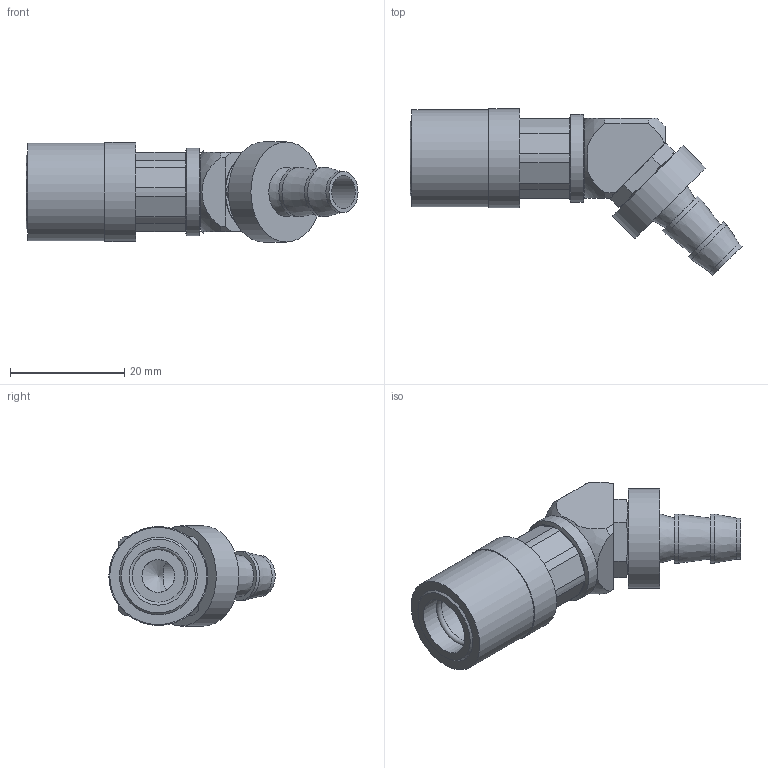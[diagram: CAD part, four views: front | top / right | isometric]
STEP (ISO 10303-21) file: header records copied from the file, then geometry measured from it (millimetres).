
FILE_DESCRIPTION(/* description */ ('STEP AP214'),/* implementation_level */ '2;1');
FILE_NAME(/* name */ 'JSL0224-V',/* time_stamp */ '2024-12-19T09:14:20+01:00',/* author */ ('License CC BY-ND 4.0'),/* organization */ ('CADENAS'),/* preprocessor_version */ 'ST-DEVELOPER v19.3',/* originating_system */ 'PARTsolutions',/* authorisation */ ' ');
FILE_SCHEMA (('AUTOMOTIVE_DESIGN {1 0 10303 214 3 1 1}'));
Length unit declared in the file: inch
Products named in the file (1): JSL0224-V
Bounding box: 58.15 x 29.14 x 17.53 mm (x, y, z)
Volume: 8248.8 mm3; surface area: 5163.4 mm2
Topology: 1 solids, 1 shells, 94 faces, 210 edges, 135 vertices
Faces by surface type: plane 63, cylinder 14, cone 13, sphere 3, torus 1
Full cylindrical faces by diameter (mm): 5.749 x1, 5.85 x1, 7.186 x2, 8.636 x2, 10.211 x2, 13.868 x1, 13.97 x1, 15.367 x1, 17.018 x1, 17.358 x1, 17.526 x1
Entity records: 2528 total; most frequent: CARTESIAN_POINT 473, DIRECTION 445, ORIENTED_EDGE 362, AXIS2_PLACEMENT_3D 187, EDGE_CURVE 181, FACE_BOUND 137, EDGE_LOOP 136, VERTEX_POINT 130
